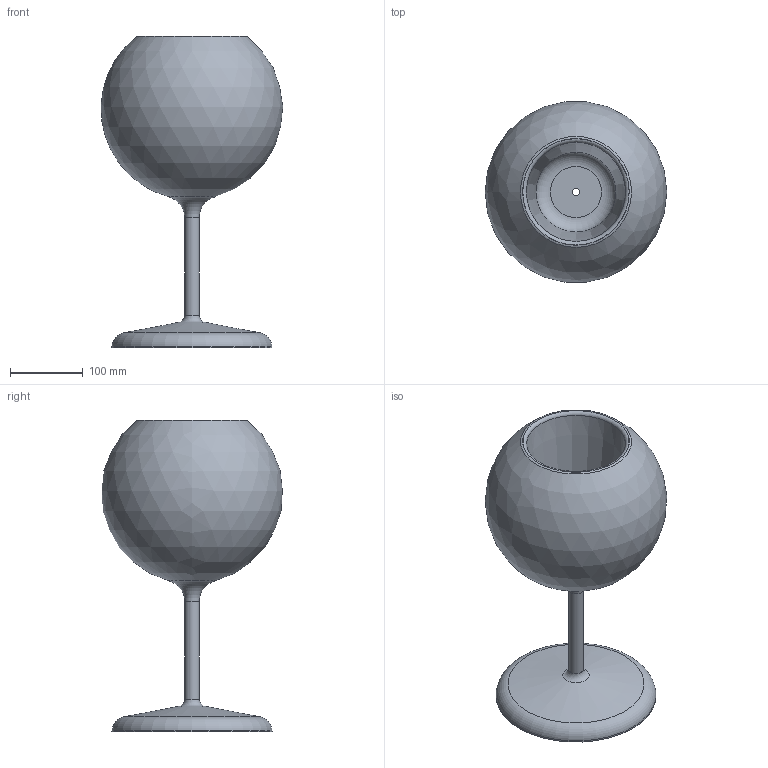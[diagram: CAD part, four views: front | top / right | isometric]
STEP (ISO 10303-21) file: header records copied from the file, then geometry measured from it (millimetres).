
FILE_DESCRIPTION(/* description */ (''),/* implementation_level */ '2;1');
FILE_NAME(/* name */ 'C:\Users\STEFANO\Desktop\3D SEM\0811-01 - GLO TAVOLO MEDIUM F.E\Parte3.stp',/* time_stamp */ '2019-09-25T09:50:18+02:00',/* author */ ('STEFANO'),/* organization */ (''),/* preprocessor_version */ 'ST-DEVELOPER v17',/* originating_system */ 'Autodesk Inventor 2019',/* authorisation */ '');
FILE_SCHEMA (('AUTOMOTIVE_DESIGN { 1 0 10303 214 3 1 1 }'));
Length unit declared in the file: millimetre
Products named in the file (1): Parte3
Bounding box: 249.99 x 248.35 x 429.17 mm (x, y, z)
Volume: 584984.2 mm3; surface area: 586431.3 mm2
Topology: 1 solids, 1 shells, 28 faces, 90 edges, 67 vertices
Faces by surface type: torus 12, cone 6, plane 5, cylinder 3, sphere 2
Full cylindrical faces by diameter (mm): 10.5 x1, 16.02 x1, 20.02 x1
Entity records: 1126 total; most frequent: DIRECTION 229, CARTESIAN_POINT 186, ORIENTED_EDGE 180, AXIS2_PLACEMENT_3D 110, EDGE_CURVE 90, CIRCLE 81, VERTEX_POINT 67, EDGE_LOOP 33
